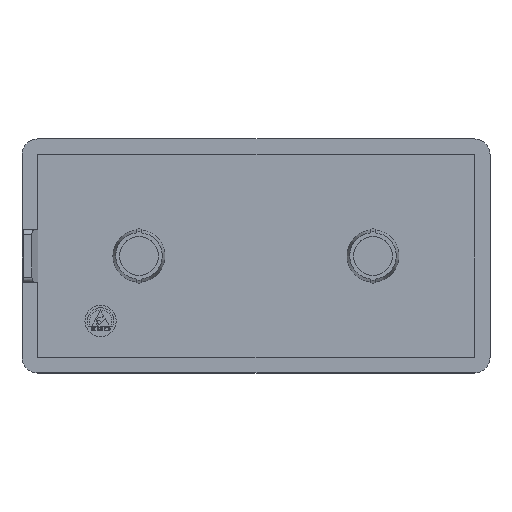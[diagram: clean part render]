
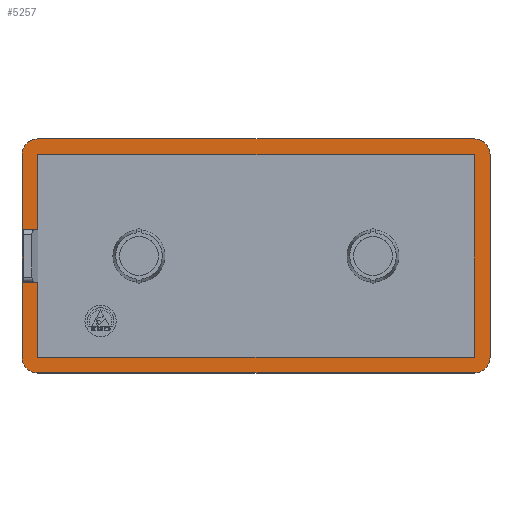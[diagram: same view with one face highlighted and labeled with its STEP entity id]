
A CAD part, top view. The second image highlights one B-rep face of the part: STEP entity #5257.
In plain terms, the highlighted planar face has unit normal (0, 0, 1).
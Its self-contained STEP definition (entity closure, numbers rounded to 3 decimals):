
#26 = VECTOR ( 'NONE', #3425, 1000. ) ;
#74 = CARTESIAN_POINT ( 'NONE',  ( -19.5, -19.5, 4. ) ) ;
#101 = ORIENTED_EDGE ( 'NONE', *, *, #1021, .T. ) ;
#116 = DIRECTION ( 'NONE',  ( 0., -1., 0. ) ) ;
#124 = VECTOR ( 'NONE', #5322, 1000. ) ;
#138 = VERTEX_POINT ( 'NONE', #901 ) ;
#157 = AXIS2_PLACEMENT_3D ( 'NONE', #664, #3529, #2352 ) ;
#183 = EDGE_CURVE ( 'NONE', #1634, #925, #2659, .T. ) ;
#239 = LINE ( 'NONE', #3660, #124 ) ;
#262 = LINE ( 'NONE', #2740, #1246 ) ;
#263 = VECTOR ( 'NONE', #575, 1000. ) ;
#276 = AXIS2_PLACEMENT_3D ( 'NONE', #2739, #644, #4731 ) ;
#358 = VECTOR ( 'NONE', #4167, 1000. ) ;
#364 = CARTESIAN_POINT ( 'NONE',  ( -22.2, 5.05, 4. ) ) ;
#401 = CARTESIAN_POINT ( 'NONE',  ( -19.5, 19.5, 4. ) ) ;
#510 = CARTESIAN_POINT ( 'NONE',  ( 64.5, -19.5, 4. ) ) ;
#517 = CARTESIAN_POINT ( 'NONE',  ( -22.5, 22.5, 4. ) ) ;
#573 = EDGE_CURVE ( 'NONE', #3922, #4230, #4370, .T. ) ;
#575 = DIRECTION ( 'NONE',  ( -1., 0., 0. ) ) ;
#611 = AXIS2_PLACEMENT_3D ( 'NONE', #3246, #3642, #1925 ) ;
#644 = DIRECTION ( 'NONE',  ( 0., 0., 1. ) ) ;
#664 = CARTESIAN_POINT ( 'NONE',  ( -19.5, -19.5, 4. ) ) ;
#826 = EDGE_CURVE ( 'NONE', #1049, #4605, #2978, .T. ) ;
#841 = VERTEX_POINT ( 'NONE', #3032 ) ;
#884 = CARTESIAN_POINT ( 'NONE',  ( 67.5, 5.05, 4. ) ) ;
#890 = LINE ( 'NONE', #74, #26 ) ;
#901 = CARTESIAN_POINT ( 'NONE',  ( -19.5, 22.5, 4. ) ) ;
#911 = DIRECTION ( 'NONE',  ( 1., 0., 0. ) ) ;
#923 = DIRECTION ( 'NONE',  ( 1., 0., 0. ) ) ;
#925 = VERTEX_POINT ( 'NONE', #3086 ) ;
#947 = CARTESIAN_POINT ( 'NONE',  ( 64.5, -22.5, 4. ) ) ;
#956 = DIRECTION ( 'NONE',  ( 0., 1., 0. ) ) ;
#963 = EDGE_CURVE ( 'NONE', #1349, #3922, #1457, .T. ) ;
#971 = VECTOR ( 'NONE', #4075, 1000. ) ;
#1016 = ORIENTED_EDGE ( 'NONE', *, *, #183, .F. ) ;
#1021 = EDGE_CURVE ( 'NONE', #138, #1184, #5240, .T. ) ;
#1044 = EDGE_CURVE ( 'NONE', #3588, #4605, #2895, .T. ) ;
#1049 = VERTEX_POINT ( 'NONE', #364 ) ;
#1076 = CARTESIAN_POINT ( 'NONE',  ( -19.5, -5.05, 4. ) ) ;
#1135 = PLANE ( 'NONE',  #4077 ) ;
#1138 = ORIENTED_EDGE ( 'NONE', *, *, #5095, .T. ) ;
#1184 = VERTEX_POINT ( 'NONE', #5115 ) ;
#1243 = EDGE_CURVE ( 'NONE', #1184, #1349, #4299, .T. ) ;
#1246 = VECTOR ( 'NONE', #2707, 1000. ) ;
#1288 = VECTOR ( 'NONE', #4078, 1000. ) ;
#1301 = ORIENTED_EDGE ( 'NONE', *, *, #3139, .T. ) ;
#1320 = CIRCLE ( 'NONE', #276, 3. ) ;
#1349 = VERTEX_POINT ( 'NONE', #3494 ) ;
#1457 = CIRCLE ( 'NONE', #157, 3. ) ;
#1535 = CARTESIAN_POINT ( 'NONE',  ( -19.5, 19.5, 4. ) ) ;
#1573 = FACE_BOUND ( 'NONE', #4264, .T. ) ;
#1634 = VERTEX_POINT ( 'NONE', #510 ) ;
#1727 = CARTESIAN_POINT ( 'NONE',  ( 67.5, 22.5, 4. ) ) ;
#1735 = VECTOR ( 'NONE', #116, 1000. ) ;
#1858 = CARTESIAN_POINT ( 'NONE',  ( -22.5, -22.5, 4. ) ) ;
#1898 = CARTESIAN_POINT ( 'NONE',  ( -19.5, 19.5, 4. ) ) ;
#1902 = EDGE_CURVE ( 'NONE', #925, #3588, #4853, .T. ) ;
#1925 = DIRECTION ( 'NONE',  ( 1., 0., 0. ) ) ;
#1938 = FACE_OUTER_BOUND ( 'NONE', #3014, .T. ) ;
#1940 = EDGE_CURVE ( 'NONE', #4230, #3542, #2304, .T. ) ;
#1982 = CARTESIAN_POINT ( 'NONE',  ( -22.5, 22.5, 4. ) ) ;
#2004 = ORIENTED_EDGE ( 'NONE', *, *, #2042, .T. ) ;
#2042 = EDGE_CURVE ( 'NONE', #3658, #138, #2893, .T. ) ;
#2060 = ORIENTED_EDGE ( 'NONE', *, *, #963, .T. ) ;
#2130 = EDGE_CURVE ( 'NONE', #3542, #2505, #5065, .T. ) ;
#2304 = CIRCLE ( 'NONE', #611, 3. ) ;
#2352 = DIRECTION ( 'NONE',  ( 1., 0., 0. ) ) ;
#2447 = ORIENTED_EDGE ( 'NONE', *, *, #1044, .F. ) ;
#2505 = VERTEX_POINT ( 'NONE', #2784 ) ;
#2659 = LINE ( 'NONE', #3984, #3953 ) ;
#2707 = DIRECTION ( 'NONE',  ( 0., -1., 0. ) ) ;
#2739 = CARTESIAN_POINT ( 'NONE',  ( 64.5, 19.5, 4. ) ) ;
#2740 = CARTESIAN_POINT ( 'NONE',  ( -19.5, 19.5, 4. ) ) ;
#2784 = CARTESIAN_POINT ( 'NONE',  ( 67.5, 19.5, 4. ) ) ;
#2893 = LINE ( 'NONE', #1982, #971 ) ;
#2895 = LINE ( 'NONE', #1535, #1288 ) ;
#2976 = ORIENTED_EDGE ( 'NONE', *, *, #4280, .F. ) ;
#2978 = LINE ( 'NONE', #884, #4198 ) ;
#2981 = CARTESIAN_POINT ( 'NONE',  ( 64.5, 22.5, 4. ) ) ;
#2992 = ORIENTED_EDGE ( 'NONE', *, *, #2130, .T. ) ;
#3014 = EDGE_LOOP ( 'NONE', ( #2004, #101, #5096, #2060, #4688, #3706, #2992, #1301 ) ) ;
#3032 = CARTESIAN_POINT ( 'NONE',  ( -22.2, -5.05, 4. ) ) ;
#3086 = CARTESIAN_POINT ( 'NONE',  ( 64.5, 19.5, 4. ) ) ;
#3139 = EDGE_CURVE ( 'NONE', #2505, #3658, #1320, .T. ) ;
#3222 = CARTESIAN_POINT ( 'NONE',  ( -19.5, 19.5, 4. ) ) ;
#3226 = AXIS2_PLACEMENT_3D ( 'NONE', #3222, #4496, #4048 ) ;
#3246 = CARTESIAN_POINT ( 'NONE',  ( 64.5, -19.5, 4. ) ) ;
#3425 = DIRECTION ( 'NONE',  ( 1., 0., 0. ) ) ;
#3494 = CARTESIAN_POINT ( 'NONE',  ( -22.5, -19.5, 4. ) ) ;
#3529 = DIRECTION ( 'NONE',  ( 0., 0., 1. ) ) ;
#3542 = VERTEX_POINT ( 'NONE', #3732 ) ;
#3588 = VERTEX_POINT ( 'NONE', #401 ) ;
#3642 = DIRECTION ( 'NONE',  ( 0., 0., 1. ) ) ;
#3658 = VERTEX_POINT ( 'NONE', #2981 ) ;
#3660 = CARTESIAN_POINT ( 'NONE',  ( -22.2, 22.5, 4. ) ) ;
#3696 = ORIENTED_EDGE ( 'NONE', *, *, #4445, .F. ) ;
#3706 = ORIENTED_EDGE ( 'NONE', *, *, #1940, .T. ) ;
#3732 = CARTESIAN_POINT ( 'NONE',  ( 67.5, -19.5, 4. ) ) ;
#3774 = VERTEX_POINT ( 'NONE', #4028 ) ;
#3913 = VERTEX_POINT ( 'NONE', #1076 ) ;
#3922 = VERTEX_POINT ( 'NONE', #4963 ) ;
#3953 = VECTOR ( 'NONE', #956, 1000. ) ;
#3984 = CARTESIAN_POINT ( 'NONE',  ( 64.5, 19.5, 4. ) ) ;
#4028 = CARTESIAN_POINT ( 'NONE',  ( -19.5, -19.5, 4. ) ) ;
#4048 = DIRECTION ( 'NONE',  ( 1., 0., 0. ) ) ;
#4075 = DIRECTION ( 'NONE',  ( -1., 0., 0. ) ) ;
#4077 = AXIS2_PLACEMENT_3D ( 'NONE', #4535, #4973, #5398 ) ;
#4078 = DIRECTION ( 'NONE',  ( 0., -1., 0. ) ) ;
#4146 = LINE ( 'NONE', #5292, #4875 ) ;
#4167 = DIRECTION ( 'NONE',  ( 0., 1., 0. ) ) ;
#4198 = VECTOR ( 'NONE', #911, 1000. ) ;
#4230 = VERTEX_POINT ( 'NONE', #947 ) ;
#4264 = EDGE_LOOP ( 'NONE', ( #3696, #4488, #1138, #5102, #2447, #5365, #1016, #2976 ) ) ;
#4280 = EDGE_CURVE ( 'NONE', #3774, #1634, #890, .T. ) ;
#4299 = LINE ( 'NONE', #517, #1735 ) ;
#4370 = LINE ( 'NONE', #1858, #4990 ) ;
#4445 = EDGE_CURVE ( 'NONE', #3913, #3774, #262, .T. ) ;
#4488 = ORIENTED_EDGE ( 'NONE', *, *, #5228, .T. ) ;
#4496 = DIRECTION ( 'NONE',  ( 0., 0., 1. ) ) ;
#4535 = CARTESIAN_POINT ( 'NONE',  ( 67.5, 22.5, 4. ) ) ;
#4564 = DIRECTION ( 'NONE',  ( -1., 0., 0. ) ) ;
#4605 = VERTEX_POINT ( 'NONE', #4916 ) ;
#4688 = ORIENTED_EDGE ( 'NONE', *, *, #573, .T. ) ;
#4731 = DIRECTION ( 'NONE',  ( 1., 0., 0. ) ) ;
#4853 = LINE ( 'NONE', #1898, #263 ) ;
#4875 = VECTOR ( 'NONE', #4564, 1000. ) ;
#4916 = CARTESIAN_POINT ( 'NONE',  ( -19.5, 5.05, 4. ) ) ;
#4963 = CARTESIAN_POINT ( 'NONE',  ( -19.5, -22.5, 4. ) ) ;
#4973 = DIRECTION ( 'NONE',  ( 0., 0., 1. ) ) ;
#4990 = VECTOR ( 'NONE', #923, 1000. ) ;
#5065 = LINE ( 'NONE', #1727, #358 ) ;
#5095 = EDGE_CURVE ( 'NONE', #841, #1049, #239, .T. ) ;
#5096 = ORIENTED_EDGE ( 'NONE', *, *, #1243, .T. ) ;
#5102 = ORIENTED_EDGE ( 'NONE', *, *, #826, .T. ) ;
#5115 = CARTESIAN_POINT ( 'NONE',  ( -22.5, 19.5, 4. ) ) ;
#5228 = EDGE_CURVE ( 'NONE', #3913, #841, #4146, .T. ) ;
#5240 = CIRCLE ( 'NONE', #3226, 3. ) ;
#5257 = ADVANCED_FACE ( 'NONE', ( #1938, #1573 ), #1135, .T. ) ;
#5292 = CARTESIAN_POINT ( 'NONE',  ( 67.5, -5.05, 4. ) ) ;
#5322 = DIRECTION ( 'NONE',  ( 0., 1., 0. ) ) ;
#5365 = ORIENTED_EDGE ( 'NONE', *, *, #1902, .F. ) ;
#5398 = DIRECTION ( 'NONE',  ( 1., 0., 0. ) ) ;
